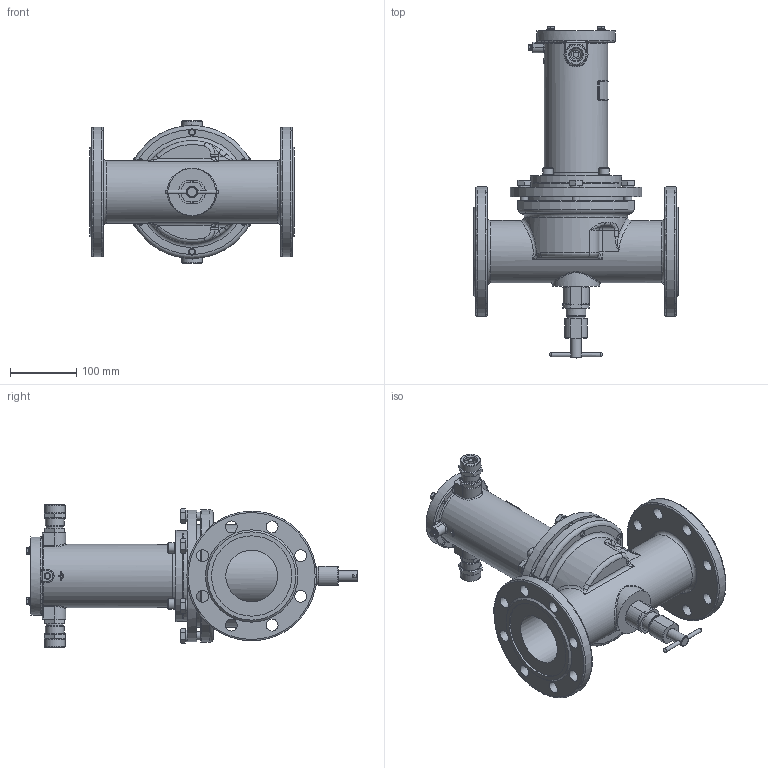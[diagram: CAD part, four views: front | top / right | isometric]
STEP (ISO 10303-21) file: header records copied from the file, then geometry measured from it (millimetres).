
FILE_DESCRIPTION(('STEP AP203'), '1');
FILE_NAME('ÑÅÍÑ DN80PN25-Â-ÍÎ.stp', '2018-09-19T08:51:49', ('Îðëîâ Å.Â.'), ('ÎÎÎ ÍÏÏ Ñåíñîð'), 'ASCON STEP Converter 1.3', 'Kompas 3D', '');
FILE_SCHEMA(('CONFIG_CONTROL_DESIGN','SUPPORT_RESOURCE_SCHEMA'));
Length unit declared in the file: millimetre
Products named in the file (1): 81
Bounding box: 308 x 499.7 x 214 mm (x, y, z)
Volume: 3440972.1 mm3; surface area: 731919.2 mm2
Topology: 3 solids, 23 shells, 2136 faces, 5649 edges, 3646 vertices
Faces by surface type: cylinder 1043, plane 807, cone 156, bspline 56, torus 50, extrusion 16, sphere 8
Full cylindrical faces by diameter (mm): 3.5 x2, 4.134 x1, 4.917 x7, 5 x1, 6 x9, 6.5 x4, 8 x8, 8.2 x1, 8.376 x4, 10 x5, 10.106 x6, 11 x5, 12 x10, 13 x8, 16 x6, 17 x2, 18 x17, 18.632 x2, 20 x3, 22 x2, 22.376 x2, 23 x1, 23.5 x2, 24 x2, 24.5 x2, 26 x4, 26.376 x2, 27.8 x1, 28 x3, 28.5 x2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
Entity records: 85156 total; most frequent: CARTESIAN_POINT 31307, DIRECTION 11589, ORIENTED_EDGE 11222, EDGE_CURVE 5611, AXIS2_PLACEMENT_3D 4466, VERTEX_POINT 3646, VECTOR 2657, LINE 2641
